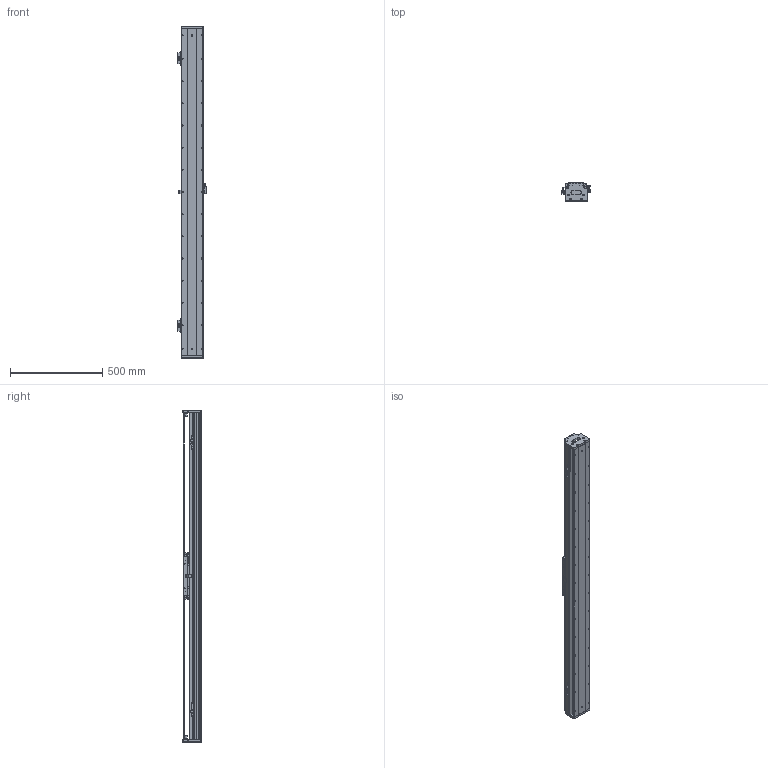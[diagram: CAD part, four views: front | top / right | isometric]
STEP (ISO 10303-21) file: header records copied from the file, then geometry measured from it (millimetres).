
FILE_DESCRIPTION (( 'STEP AP203' ), '1' );
FILE_NAME ('DKW119-C3-W060(T1440-L005-0.2).STEP', '2021-09-02T01:16:12', ( '微软用户' ), ( '微软中国' ), 'SwSTEP 2.0', 'SolidWorks 2018', '' );
FILE_SCHEMA (( 'CONFIG_CONTROL_DESIGN' ));
Length unit declared in the file: millimetre
Products named in the file (23): pm-y65; DKW-HXJ-JY-00 遣喳砎蝶; DKW119-C3-W060(T1440-L005-0.2); 10980-0001-003-00 嫖萇羲壽嘐隅釱; 11062-0001-004-00 DKW119傷啣; 嫖萇羲壽蚾饜极; 06652-0001-004-00 DKW120嶺輸菜輸; 嫖萇羲壽蚾饜极A; 12018-0001-002-00 詩湍; 12018-0001-001-00 菁釱; DKW-SG-GYP-H-00 嫖萇覜茼え; 砎蝶猾沭; MSB15-DG-U; RUS嫖掑喜; 12160-0000-003-00 DKW120詩湍嶺輸; DKW119-RU-DTJ-00 RU2黍杅芛盓殤; Ru2; 12160-0000-004-00  DKW120詩湍揤輸; 萇儂堤盄 ^DKW119-C3-W060(T1440-L005-0.2); RUS嫖掑郪璃; DKW119 单轴模组-拉钢带组件; CKMA01-W060-TRLxxx; CKM03-W060_00
Assembly tree (36 placements, depth 3):
  DKW119-C3-W060(T1440-L005-0.2)
    12018-0001-001-00 菁釱
    MSB15-DG-U  x2
    DKW119-RU-DTJ-00 RU2黍杅芛盓殤
    萇儂堤盄 ^DKW119-C3-W060(T1440-L005-0.2)
    CKMA01-W060-TRLxxx
    DKW119 单轴模组-拉钢带组件
      DKW-HXJ-JY-00 遣喳砎蝶  x4
      11062-0001-004-00 DKW119傷啣  x2
      06652-0001-004-00 DKW120嶺輸菜輸  x4
      12018-0001-002-00 詩湍
      砎蝶猾沭  x2
      12160-0000-003-00 DKW120詩湍嶺輸  x2
      12160-0000-004-00  DKW120詩湍揤輸  x2
    嫖萇羲壽蚾饜极
      pm-y65
      10980-0001-003-00 嫖萇羲壽嘐隅釱
    嫖萇羲壽蚾饜极A
      pm-y65  x2
      10980-0001-003-00 嫖萇羲壽嘐隅釱
    DKW-SG-GYP-H-00 嫖萇覜茼え
    RUS嫖掑郪璃
      RUS嫖掑喜
      Ru2
    CKM03-W060_00
Bounding box: 154.3 x 99 x 1796 mm (x, y, z)
Volume: 8043320.4 mm3; surface area: 2583420.9 mm2
Topology: 42 solids, 91 shells, 4258 faces, 11357 edges, 7246 vertices
Faces by surface type: plane 2130, cylinder 1471, cone 410, bspline 247
Entity records: 128949 total; most frequent: CARTESIAN_POINT 43320, ORIENTED_EDGE 17251, DIRECTION 16608, EDGE_CURVE 8666, VERTEX_POINT 5689, AXIS2_PLACEMENT_3D 5630, VECTOR 5348, LINE 5348
